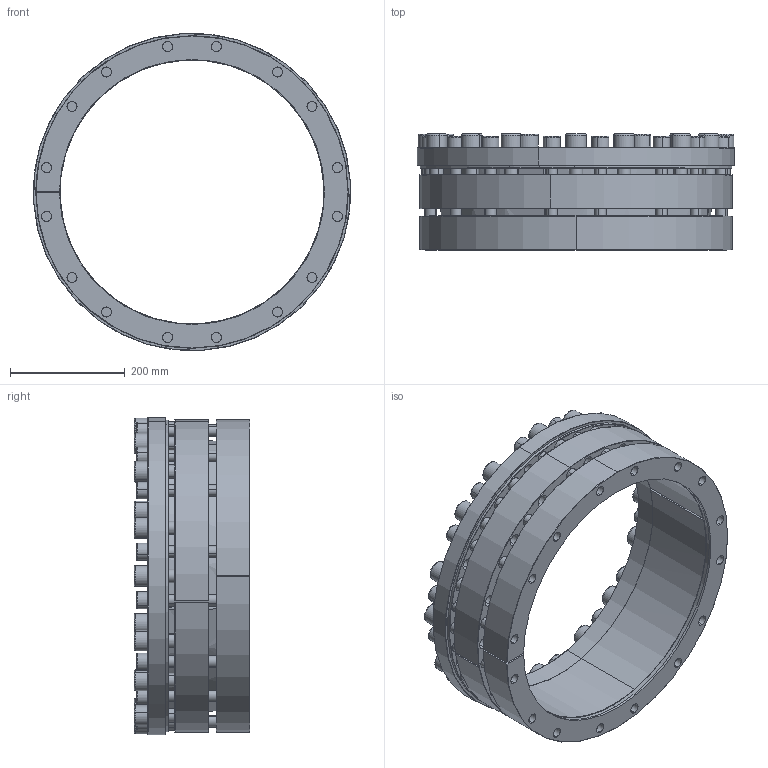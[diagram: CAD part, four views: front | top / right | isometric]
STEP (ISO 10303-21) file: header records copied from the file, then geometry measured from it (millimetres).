
FILE_DESCRIPTION (( 'STEP AP214' ), '1' );
FILE_NAME ('CONEX-P-460x545-P-017.step', '2015-11-30T21:15:04', ( '' ), ( '' ), 'SwSTEP 2.0', 'SolidWorks 2013', '' );
FILE_SCHEMA (( 'AUTOMOTIVE_DESIGN' ));
Length unit declared in the file: millimetre
Products named in the file (1): CONEX-P-460x545-P-017
Bounding box: 552.97 x 202 x 552.97 mm (x, y, z)
Volume: 11192373.9 mm3; surface area: 1867580.5 mm2
Topology: 35 solids, 35 shells, 1123 faces, 2583 edges, 1532 vertices
Faces by surface type: plane 502, cylinder 325, cone 166, torus 130
Entity records: 44276 total; most frequent: DIRECTION 5953, CARTESIAN_POINT 5291, ORIENTED_EDGE 5038, EDGE_CURVE 2519, AXIS2_PLACEMENT_3D 2338, VERTEX_POINT 1532, EDGE_LOOP 1365, LINE 1277
